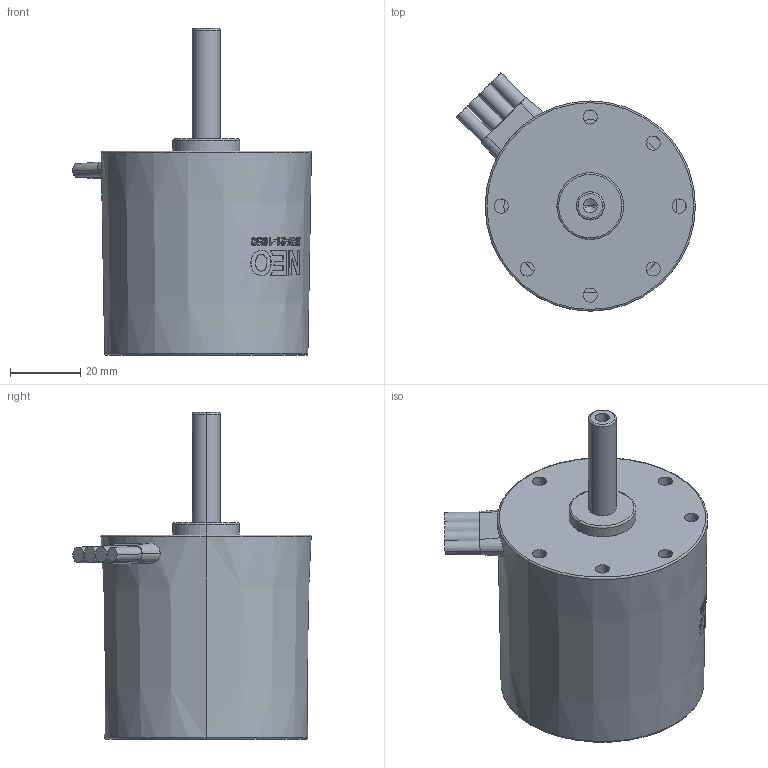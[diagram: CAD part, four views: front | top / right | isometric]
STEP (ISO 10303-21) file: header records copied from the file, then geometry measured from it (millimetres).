
FILE_DESCRIPTION (( 'STEP AP214' ), '1' );
FILE_NAME ('NEO_Brushless_Motor-REV-21-1650.step', '2025-12-23T15:54:59', ( '' ), ( '' ), 'SwSTEP 2.0', 'SolidWorks 2026', '' );
FILE_SCHEMA (( 'AUTOMOTIVE_DESIGN' ));
Length unit declared in the file: inch
Products named in the file (1): NEO_Brushless_Motor-REV-21-1650
Bounding box: 68.13 x 68.01 x 93.35 mm (x, y, z)
Volume: 117626.6 mm3; surface area: 42044.1 mm2
Topology: 1 solids, 1 shells, 1521 faces, 4231 edges, 2815 vertices
Faces by surface type: bspline 1009, plane 434, cylinder 39, cone 31, torus 8
Entity records: 65122 total; most frequent: CARTESIAN_POINT 33301, ORIENTED_EDGE 8458, EDGE_CURVE 4229, DIRECTION 3179, VERTEX_POINT 2815, B_SPLINE_CURVE_WITH_KNOTS 2180, VECTOR 1941, LINE 1941
